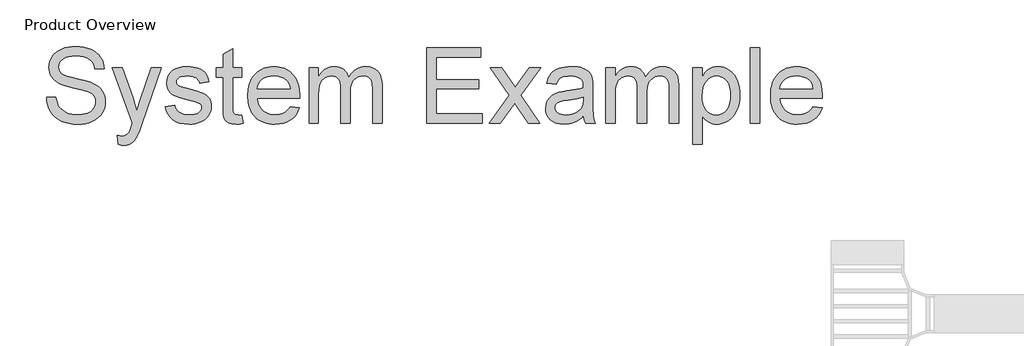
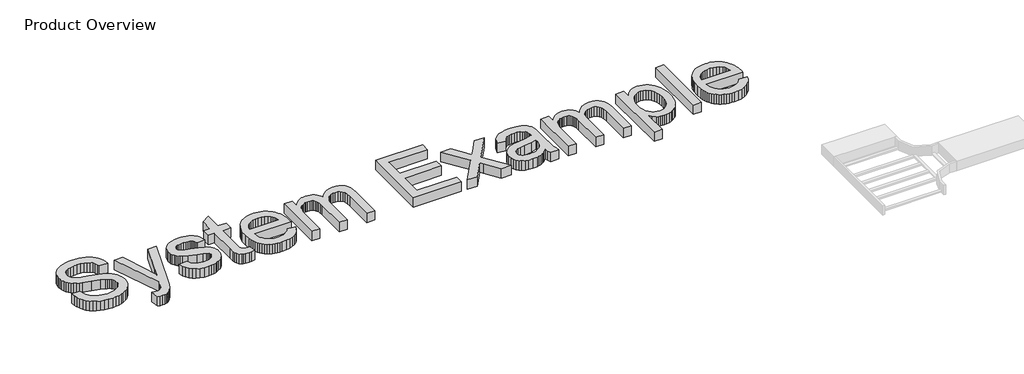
# One storey, part 2 of 11: 1 proxy.
"""IFC4 building model written with IfcOpenShell, lengths in millimetres."""

from ifc_helpers import new_model, si_unit, origin, origin_with_axes, place, context, project, spatial, polyline, outline, extrude, element, save

model = new_model("IFC4")

# Units and contexts
model_context = context("Model", 3, world=origin())
ifc_project = project(units=[si_unit("LENGTHUNIT", "METRE", prefix="MILLI")], contexts=[model_context])

# Site, building, storey
site = spatial("IfcSite", under=ifc_project)
building = spatial("IfcBuilding", under=site)
storey = spatial("IfcBuildingStorey", under=building, Name="Product Overview", Elevation=0.0)

# Proxy
placement = place(None, origin())
element("IfcBuildingElementProxy", 1, Name="1000mm", ObjectType="1000mm", at=placement, inside=storey, context=model_context, shape_type="SweptSolid", body=[
    extrude(outline(polyline([(-16866.6874423, -22458.8725874), (-16744.2631999, -22458.8725874), (-16738.6590628, -22494.507427), (-16730.2154963, -22526.8096731), (-16718.9325003, -22555.7793257), (-16704.8100749, -22581.4163847), (-16687.1308905, -22604.2364309), (-16665.1776175, -22624.7550448), (-16638.950256, -22642.9722263), (-16608.448806, -22658.8879756), (-16574.7940948, -22671.8073796), (-16539.1069499, -22681.0355253), (-16501.3873713, -22686.5724128), (-16461.635359, -22688.4180419), (-16393.4292747, -22682.8288492), (-16362.5093824, -22675.8423583), (-16333.7115901, -22666.0612711), (-16307.745755, -22653.8367801), (-16285.3217345, -22639.5200779), (-16266.4395286, -22623.1111645), (-16251.0991374, -22604.61004), (-16239.225839, -22584.8162279), (-16230.7449116, -22564.5292517), (-16225.6563551, -22543.7491114), (-16223.9601696, -22522.4758071), (-16229.0412539, -22481.4983568), (-16244.2845067, -22446.0802105), (-16257.1067724, -22430.3662101), (-16275.2492321, -22415.8627034), (-16298.711886, -22402.5696902), (-16327.494734, -22390.4871707), (-16392.1440593, -22371.2687166), (-16505.7511261, -22343.7411953), (-16622.7655082, -22312.8063587), (-16665.4690327, -22297.8993541), (-16697.6367795, -22283.3659586), (-16730.3275791, -22263.8635616), (-16758.5799021, -22242.1792872), (-16782.3937486, -22218.3131354), (-16801.7691185, -22192.2651063), (-16816.7807337, -22164.3041984), (-16827.5033159, -22134.6994103), (-16833.9368653, -22103.450742), (-16836.0813817, -22070.5581934), (-16833.4287569, -22034.1014137), (-16825.4708822, -21998.8551276), (-16812.2077578, -21964.8193351), (-16793.6393836, -21931.9940362), (-16769.9749808, -21901.7167517), (-16741.4237705, -21875.3250021), (-16707.9857526, -21852.8187877), (-16669.6609272, -21834.1981082), (-16627.7419819, -21819.6049353), (-16583.5216043, -21809.1812403), (-16536.9997944, -21802.9270233), (-16488.1765522, -21800.8422843), (-16434.9148334, -21803.0241617), (-16384.8810976, -21809.5697938), (-16338.0753448, -21820.4791806), (-16294.4975749, -21835.7523222), (-16254.9547837, -21855.2547192), (-16220.253967, -21878.8518724), (-16190.3951246, -21906.5437817), (-16165.3782567, -21938.3304472), (-16145.39764, -21973.2853182), (-16130.6475512, -22010.481844), (-16121.1279904, -22049.9200246), (-16116.8389575, -22091.5998601), (-16239.2631999, -22091.5998601), (-16247.4527122, -22052.5352886), (-16261.7395257, -22018.5518014), (-16282.1236403, -21989.6493984), (-16308.605056, -21965.8280798), (-16341.6769369, -21947.2074003), (-16381.8324471, -21933.906915), (-16429.0715865, -21925.9266238), (-16483.3943552, -21923.2665268), (-16539.4506703, -21925.8967351), (-16587.3473618, -21933.7873601), (-16627.0844298, -21946.9384018), (-16658.6618742, -21965.3498601), (-16682.7223027, -21987.4824654), (-16699.908323, -22011.7969482), (-16710.2199352, -22038.2933082), (-16713.6571393, -22066.9715457), (-16711.2212077, -22091.6446932), (-16703.913413, -22114.0164084), (-16691.7337551, -22134.0866913), (-16674.682234, -22151.8555419), (-16647.8421535, -22168.6828975), (-16605.5794878, -22185.6895855), (-16547.8942368, -22202.8756058), (-16474.7864007, -22220.2409586), (-16339.8088912, -22253.0587853), (-16292.3156975, -22267.8985403), (-16258.1528779, -22281.6921896), (-16220.6201039, -22302.599357), (-16188.3626909, -22326.106844), (-16161.380639, -22352.2146506), (-16139.673948, -22380.9227768), (-16122.9885639, -22412.0817789), (-16111.0704324, -22445.5422133), (-16103.9195535, -22481.30408), (-16101.5359272, -22519.367379), (-16104.2782183, -22557.6623157), (-16112.5050915, -22594.836425), (-16126.2165469, -22630.8897068), (-16145.4125844, -22665.8221612), (-16169.7569558, -22698.2813232), (-16198.913413, -22726.9147275), (-16232.8819558, -22751.7223743), (-16271.6625844, -22772.7042635), (-16314.126999, -22789.3896476), (-16359.1469002, -22801.3077791), (-16406.7222879, -22808.458658), (-16456.853162, -22810.8422843), (-16519.4775258, -22808.2718535), (-16576.7966398, -22800.5605609), (-16628.810504, -22787.7084065), (-16675.5191185, -22769.7153904), (-16717.2064261, -22746.5516238), (-16754.1563699, -22718.1872181), (-16786.3689498, -22684.6221731), (-16813.8441658, -22645.8564889), (-16835.9767712, -22603.1454922), (-16852.161519, -22557.7445097), (-16862.3984094, -22509.6535414), (-16866.6874423, -22458.8725874)])), origin_with_axes(), (0.0, 0.0, 1.0), 150.0),
    extrude(outline(polyline([(-15933.2025939, -23070.9937995), (-15948.5056242, -22953.1126442), (-15915.1498003, -22961.1826016), (-15886.3370636, -22963.8725874), (-15853.6387918, -22960.4951608), (-15828.2333704, -22950.3628809), (-15808.4470304, -22934.1930774), (-15792.6060029, -22912.7030798), (-15779.0962965, -22881.0808023), (-15759.1306242, -22822.5586669), (-15749.5662302, -22792.9090457), (-16009.7177454, -22076.2968298), (-15880.5984272, -22076.2968298), (-15742.6320446, -22475.6102768), (-15717.2266232, -22553.5600874), (-15694.5709651, -22635.3356556), (-15646.5098855, -22494.2608449), (-15504.7177454, -22076.2968298), (-15376.5548666, -22076.2968298), (-15626.9028779, -22812.7551631), (-15664.0844594, -22910.6706461), (-15691.9407567, -22972.4805419), (-15725.2368031, -23023.4707171), (-15743.5436509, -23043.092669), (-15762.9563817, -23058.7991972), (-15783.8934378, -23070.8294115), (-15806.7732615, -23079.4224216), (-15831.5958526, -23084.5782278), (-15858.3612113, -23086.2968298), (-15893.8092463, -23082.4710722), (-15933.2025939, -23070.9937995)])), origin_with_axes(), (0.0, 0.0, 1.0), 150.0),
    extrude(outline(polyline([(-15321.0813817, -22581.2968298), (-15198.6571393, -22565.9937995), (-15191.2596784, -22593.9098743), (-15179.349019, -22618.3588563), (-15162.9251613, -22639.3407455), (-15141.9881052, -22656.8555419), (-15116.4780733, -22670.6641357), (-15086.335288, -22680.5274169), (-15051.5597494, -22686.4453857), (-15012.1514575, -22688.4180419), (-14972.7879987, -22686.6097737), (-14938.8642889, -22681.184969), (-14910.3803282, -22672.1436279), (-14887.3361166, -22659.4857502), (-14869.5523216, -22644.3919411), (-14856.8496109, -22628.0428052), (-14849.2279845, -22610.4383426), (-14846.6874423, -22591.5785533), (-14849.2429288, -22575.050085), (-14856.9093884, -22560.3747181), (-14869.6868209, -22547.5524524), (-14887.5752264, -22536.5832881), (-14933.4245399, -22521.041148), (-15013.5861166, -22501.6732502), (-15125.3101933, -22469.363532), (-15197.9398098, -22441.7762332), (-15222.8744837, -22427.9452229), (-15244.596119, -22411.678281), (-15263.1047157, -22392.9754076), (-15278.4002738, -22371.8366025), (-15290.3781828, -22348.8970014), (-15298.933832, -22324.7917398), (-15304.0672216, -22299.5208177), (-15305.7783514, -22273.0842351), (-15300.2788249, -22225.6508189), (-15283.7802454, -22181.8638279), (-15257.7770493, -22143.4568085), (-15223.7636734, -22112.1633071), (-15189.9595186, -22092.4666333), (-15145.9334177, -22075.938165), (-15095.0329087, -22064.7298909), (-15040.6055295, -22060.9937995), (-14999.4636912, -22062.4957082), (-14960.9221725, -22067.0014344), (-14924.9809734, -22074.5109781), (-14891.6400939, -22085.0243393), (-14861.6915853, -22098.1006591), (-14835.9274992, -22113.2990788), (-14814.3478353, -22130.6195985), (-14796.9525939, -22150.0622181), (-14782.8451128, -22172.3069061), (-14771.1287302, -22198.0336314), (-14761.8034461, -22227.2423938), (-14754.8692605, -22259.9331934), (-14877.2935029, -22275.2362237), (-14883.1292777, -22254.7848595), (-14892.7459769, -22236.7096494), (-14906.1436006, -22221.0105934), (-14923.3221488, -22207.6876915), (-14944.3563433, -22197.0697198), (-14969.3209059, -22189.4854543), (-14998.2158366, -22184.934895), (-15031.0411355, -22183.4180419), (-15069.1193789, -22184.8676454), (-15101.339431, -22189.2164557), (-15127.7012918, -22196.464473), (-15148.2049613, -22206.6116972), (-15163.5827134, -22218.6867446), (-15174.5668221, -22231.7182313), (-15181.1572873, -22245.7061574), (-15183.354109, -22260.650523), (-15179.7076838, -22279.4804235), (-15168.7684083, -22296.2778904), (-15150.0580626, -22311.2820334), (-15123.0984272, -22323.2973033), (-15017.650984, -22349.3602768), (-14909.4836663, -22381.341219), (-14837.9599329, -22406.9857502), (-14812.7936213, -22419.4941842), (-14790.4966279, -22434.5431603), (-14771.0689528, -22452.1326785), (-14754.5105958, -22472.2627389), (-14741.2773601, -22494.9632301), (-14731.8250489, -22520.264041), (-14726.1536622, -22548.1651714), (-14724.2631999, -22578.6666215), (-14726.4824382, -22609.3025708), (-14733.140153, -22639.0418582), (-14744.2363444, -22667.8844837), (-14759.7710124, -22695.8304472), (-14779.4901027, -22721.7663936), (-14803.1395612, -22744.5789676), (-14830.7193878, -22764.2681692), (-14862.2295825, -22780.8339984), (-14896.8108443, -22793.9626235), (-14933.6038723, -22803.3402128), (-14972.6086663, -22808.9667665), (-15013.8252264, -22810.8422843), (-15079.7149341, -22807.2257479), (-15137.2656857, -22796.3761385), (-15186.4774814, -22778.2934562), (-15227.3503211, -22752.977701), (-15260.7360337, -22720.5484278), (-15287.486448, -22681.1251915), (-15307.601564, -22634.7079922), (-15321.0813817, -22581.2968298)])), origin_with_axes(), (0.0, 0.0, 1.0), 150.0),
    extrude(outline(polyline([(-14326.384412, -22693.4393487), (-14311.0813817, -22799.1259018), (-14359.5609035, -22807.9131887), (-14402.6604537, -22810.8422843), (-14461.421699, -22805.7612001), (-14485.1981845, -22799.4098447), (-14505.2385787, -22790.5179472), (-14536.2033041, -22767.0254046), (-14556.4080863, -22737.196451), (-14562.8939409, -22716.13984), (-14567.5266942, -22685.967166), (-14571.2328969, -22598.273629), (-14571.2328969, -22198.7210722), (-14663.0510787, -22198.7210722), (-14663.0510787, -22076.2968298), (-14571.2328969, -22076.2968298), (-14571.2328969, -21901.5075306), (-14448.8086545, -21829.5354662), (-14448.8086545, -22076.2968298), (-14326.384412, -22076.2968298), (-14326.384412, -22198.7210722), (-14448.8086545, -22198.7210722), (-14448.8086545, -22594.6869813), (-14447.194663, -22634.9769908), (-14442.3526886, -22657.8119813), (-14433.8941777, -22670.4549145), (-14421.4305768, -22680.1687521), (-14403.7663368, -22686.3557195), (-14379.7059083, -22688.4180419), (-14326.384412, -22693.4393487)])), origin_with_axes(), (0.0, 0.0, 1.0), 150.0),
    extrude(outline(polyline([(-13700.3948287, -22581.2968298), (-13580.3616848, -22596.5998601), (-13598.7656709, -22644.675884), (-13623.6106786, -22687.0431603), (-13654.8967078, -22723.7016889), (-13692.6237586, -22754.6514699), (-13736.4032775, -22779.2349512), (-13785.8467108, -22796.7945807), (-13840.9540587, -22807.3303584), (-13901.7253211, -22810.8422843), (-13940.7413234, -22809.3272993), (-13977.6875311, -22804.7823441), (-14012.5639442, -22797.2074188), (-14045.3705626, -22786.6025234), (-14076.1073864, -22772.9676579), (-14104.7744156, -22756.3028223), (-14131.3716501, -22736.6080166), (-14155.8990901, -22713.8832408), (-14177.9233488, -22688.4236461), (-14197.0110396, -22660.5243837), (-14213.1621627, -22630.1854536), (-14226.3767179, -22597.4068558), (-14236.6547053, -22562.1885904), (-14243.9961249, -22524.5306573), (-14249.8692605, -22441.8957881), (-14243.9363474, -22356.4588504), (-14236.520206, -22317.5399865), (-14226.1376081, -22281.1541925), (-14212.7885536, -22247.3014685), (-14196.4730425, -22215.9818144), (-14177.1910749, -22187.1952303), (-14154.9426507, -22160.9417162), (-14130.3292806, -22137.5164232), (-14103.9524755, -22117.2145026), (-14075.8122352, -22100.0359544), (-14045.9085598, -22085.9807787), (-14014.2414492, -22075.0489753), (-13980.8109035, -22067.2405443), (-13945.6169227, -22062.5554857), (-13908.6595067, -22060.9937995), (-13872.9107163, -22062.5517496), (-13838.8319588, -22067.2255999), (-13806.4232341, -22075.0153504), (-13775.6845422, -22085.9210012), (-13746.6158832, -22099.9425522), (-13719.2172571, -22117.0800033), (-13693.4886638, -22137.3333547), (-13669.4301033, -22160.7026063), (-13647.6580308, -22186.896343), (-13628.7889013, -22215.6231496), (-13612.8227147, -22246.8830262), (-13599.7594712, -22280.6759728), (-13589.5991707, -22317.0019893), (-13582.3418132, -22355.8610758), (-13576.5359272, -22441.1784586), (-13577.2532567, -22474.1756177), (-14127.4450181, -22474.1756177), (-14120.3539167, -22523.0287486), (-14106.2539078, -22565.8144671), (-14085.1449915, -22602.5327732), (-14057.0271677, -22633.1836669), (-14023.4546506, -22657.348706), (-13985.981654, -22674.6094482), (-13944.608178, -22684.9658935), (-13899.3342226, -22688.4180419), (-13865.4702904, -22686.8189948), (-13834.1767889, -22682.0218535), (-13805.4537184, -22674.0266179), (-13779.3010787, -22662.8332881), (-13755.7188699, -22648.1429768), (-13734.707092, -22629.6567966), (-13716.2657449, -22607.3747476), (-13700.3948287, -22581.2968298)]), holes=[polyline([(-14127.4450181, -22351.7513752), (-13698.9601696, -22351.7513752), (-13705.2517475, -22317.1103359), (-13715.5185266, -22287.0721612), (-13729.760507, -22261.6368511), (-13747.9776886, -22240.8044056), (-13781.3634011, -22215.6978715), (-13819.3519783, -22197.7646328), (-13861.9434201, -22187.0046896), (-13909.1377264, -22183.4180419), (-13952.1849713, -22186.2798879), (-13991.6605129, -22194.8654259), (-14027.5643511, -22209.1746559), (-14059.8964859, -22229.2075779), (-14087.0279815, -22254.0376412), (-14107.3299021, -22282.7382952), (-14120.8022476, -22315.3095399), (-14127.4450181, -22351.7513752)])]), origin_with_axes(), (0.0, 0.0, 1.0), 150.0),
    extrude(outline(polyline([(-13454.1116848, -22795.539254), (-13454.1116848, -22076.2968298), (-13331.6874423, -22076.2968298), (-13331.6874423, -22194.6562048), (-13314.5910882, -22166.0003839), (-13294.8645257, -22140.288603), (-13272.5077548, -22117.5208621), (-13247.5207757, -22097.6971612), (-13220.307086, -22081.6394405), (-13191.2701838, -22070.1696399), (-13160.410069, -22063.2877596), (-13127.7267416, -22060.9937995), (-13091.9947636, -22063.3325927), (-13059.6402122, -22070.3489723), (-13030.6630875, -22082.0429383), (-13005.0633893, -22098.4144908), (-12982.9158396, -22119.0003543), (-12964.2951601, -22143.3372536), (-12949.201351, -22171.4251886), (-12937.634412, -22203.2641593), (-12916.1070535, -22169.9195437), (-12893.0105366, -22141.0208769), (-12868.3448613, -22116.5681588), (-12842.1100276, -22096.5613895), (-12814.3060355, -22081.0005688), (-12784.932885, -22069.885697), (-12753.9905762, -22063.2167739), (-12721.479109, -22060.9937995), (-12672.4690623, -22064.69253), (-12629.4517061, -22075.7887214), (-12592.4270405, -22094.2823737), (-12561.3950654, -22120.173487), (-12536.8638894, -22153.7609485), (-12519.3416208, -22195.3436456), (-12508.8282597, -22244.9215783), (-12505.323806, -22302.4947465), (-12505.323806, -22795.539254), (-12627.7480484, -22795.539254), (-12627.7480484, -22355.0989131), (-12630.5874779, -22294.0362356), (-12639.1057662, -22252.8794529), (-12655.0663486, -22224.6943795), (-12680.2326601, -22202.5468298), (-12712.6021559, -22188.2002389), (-12750.1722908, -22183.4180419), (-12784.8656354, -22186.4816368), (-12816.495385, -22195.6724216), (-12845.0615398, -22210.9903963), (-12870.5640995, -22232.4355609), (-12891.5385166, -22260.6355786), (-12906.520243, -22296.2181129), (-12915.5092789, -22339.1831638), (-12918.5056242, -22389.5307313), (-12918.5056242, -22795.539254), (-13040.9298666, -22795.539254), (-13040.9298666, -22341.4696518), (-13042.7007739, -22304.3777365), (-13048.0134958, -22272.2473506), (-13056.8680324, -22245.0784941), (-13069.2643836, -22222.8711669), (-13085.6957135, -22205.6104247), (-13106.6551862, -22193.2813232), (-13132.1428016, -22185.8838622), (-13162.1585598, -22183.4180419), (-13186.2040439, -22185.0619221), (-13209.3229774, -22189.9935627), (-13231.5153602, -22198.2129638), (-13252.7811923, -22209.7201252), (-13272.1490901, -22224.3954922), (-13288.6476696, -22242.1195097), (-13302.276931, -22262.8921778), (-13313.0368742, -22286.7134965), (-13321.1964977, -22314.8537368), (-13327.0248003, -22348.5831698), (-13331.6874423, -22432.8096139), (-13331.6874423, -22795.539254), (-13454.1116848, -22795.539254)])), origin_with_axes(), (0.0, 0.0, 1.0), 150.0),
    extrude(outline(polyline([(-11923.8086545, -22795.539254), (-11923.8086545, -21816.1453146), (-11219.8692605, -21816.1453146), (-11219.8692605, -21938.5695571), (-11801.384412, -21938.5695571), (-11801.384412, -22229.3271328), (-11250.4753211, -22229.3271328), (-11250.4753211, -22351.7513752), (-11801.384412, -22351.7513752), (-11801.384412, -22673.1150116), (-11204.5662302, -22673.1150116), (-11204.5662302, -22795.539254), (-11923.8086545, -22795.539254)])), origin_with_axes(), (0.0, 0.0, 1.0), 150.0),
    extrude(outline(polyline([(-11112.7480484, -22795.539254), (-10851.1618742, -22434.0051631), (-11097.4450181, -22076.2968298), (-10950.1533514, -22076.2968298), (-10831.3157567, -22248.4559207), (-10775.8422719, -22329.7532692), (-10727.7811923, -22263.2807313), (-10592.4450181, -22076.2968298), (-10445.1533514, -22076.2968298), (-10703.8702075, -22434.0051631), (-10454.7177454, -22795.539254), (-10602.009412, -22795.539254), (-10751.931287, -22578.1884018), (-10779.4289196, -22538.4961669), (-10965.4563817, -22795.539254), (-11112.7480484, -22795.539254)])), origin_with_axes(), (0.0, 0.0, 1.0), 150.0),
    extrude(outline(polyline([(-9888.5056242, -22703.7210722), (-9917.5350542, -22730.9646506), (-9946.9978708, -22753.8743629), (-9976.8940741, -22772.4502093), (-10007.2236639, -22786.6921896), (-10038.3303608, -22797.2578561), (-10070.557885, -22804.8047607), (-10138.3754158, -22810.8422843), (-10192.8849891, -22807.2108035), (-10240.6845422, -22796.316361), (-10281.7740753, -22778.1589569), (-10316.1535882, -22752.7385912), (-10343.3000282, -22721.6692552), (-10362.6903424, -22686.5649406), (-10374.324531, -22647.4256473), (-10378.2025939, -22604.2513752), (-10372.3444026, -22553.5003099), (-10354.7698287, -22507.4118866), (-10327.6607496, -22467.9587616), (-10293.1990427, -22437.1135912), (-10252.6998121, -22413.8003809), (-10207.478162, -22396.9431366), (-10163.4221725, -22387.5580751), (-10101.5524992, -22378.5316783), (-9976.3784935, -22359.1637806), (-9928.0484154, -22348.224505), (-9889.2229537, -22336.4483449), (-9888.5056242, -22309.1898222), (-9890.6127797, -22279.5103123), (-9896.9342463, -22254.5532218), (-9907.470024, -22234.3185509), (-9922.2201128, -22218.8062995), (-9947.7152004, -22203.3239368), (-9978.769592, -22192.2651063), (-10015.3832875, -22185.629808), (-10057.556287, -22183.4180419), (-10096.7703022, -22184.8900619), (-10130.4847908, -22189.3061219), (-10158.6997529, -22196.666222), (-10181.4151886, -22206.970362), (-10200.0807011, -22221.0255378), (-10216.145894, -22239.638745), (-10229.6107674, -22262.8099838), (-10240.4753211, -22290.539254), (-10362.8995636, -22275.2362237), (-10353.5817516, -22239.9675211), (-10341.6486758, -22208.2854662), (-10327.1003359, -22180.190059), (-10309.9367321, -22155.6812995), (-10289.4181182, -22134.2660237), (-10264.8047482, -22115.4510675), (-10236.096622, -22099.2364309), (-10203.2937397, -22085.6221139), (-10167.0611255, -22074.8472263), (-10128.0638036, -22067.1508781), (-10086.3017741, -22062.5330691), (-10041.775037, -22060.9937995), (-9959.0131407, -22066.4335485), (-9924.0657419, -22073.2332349), (-9893.4073761, -22082.7527957), (-9843.9415261, -22107.2914439), (-9824.8799879, -22121.645507), (-9809.5993742, -22137.3893961), (-9786.8241611, -22174.6008663), (-9772.0591279, -22220.4800684), (-9767.5758183, -22262.8025116), (-9766.0813817, -22327.6012806), (-9766.0813817, -22479.914254), (-9764.5271677, -22612.5903312), (-9759.8645257, -22692.6024643), (-9750.6587965, -22745.1767422), (-9735.4753211, -22795.539254), (-9857.8995636, -22795.539254), (-9877.5065711, -22752.977701), (-9888.5056242, -22703.7210722)]), holes=[polyline([(-9888.5056242, -22458.8725874), (-9970.759412, -22479.256702), (-10086.010359, -22496.4128336), (-10149.5239125, -22505.7978951), (-10191.3382473, -22516.258951), (-10218.7462136, -22529.8284349), (-10239.040662, -22548.5387806), (-10251.5939291, -22570.9553288), (-10255.7783514, -22595.6434207), (-10253.4993357, -22614.667598), (-10246.6622885, -22632.0478951), (-10235.2672097, -22647.784312), (-10219.3140995, -22661.8768487), (-10198.9524015, -22673.4886207), (-10174.3315593, -22681.7827436), (-10145.4515729, -22686.7592173), (-10112.3124423, -22688.4180419), (-10078.4783988, -22686.5873571), (-10046.557234, -22681.0953028), (-10016.548948, -22671.9418789), (-9988.4535408, -22659.1270855), (-9963.1078969, -22643.7119724), (-9941.3489007, -22626.7575897), (-9923.1765522, -22608.2639374), (-9908.5908514, -22588.2310154), (-9900.1173962, -22570.2977768), (-9894.0649281, -22548.5387806), (-9889.2229537, -22493.5435154), (-9888.5056242, -22458.8725874)])]), origin_with_axes(), (0.0, 0.0, 1.0), 150.0),
    extrude(outline(polyline([(-9597.7480484, -22795.539254), (-9597.7480484, -22076.2968298), (-9475.323806, -22076.2968298), (-9475.323806, -22194.6562048), (-9458.2274518, -22166.0003839), (-9438.5008893, -22140.288603), (-9416.1441185, -22117.5208621), (-9391.1571393, -22097.6971612), (-9363.9434497, -22081.6394405), (-9334.9065475, -22070.1696399), (-9304.0464326, -22063.2877596), (-9271.3631052, -22060.9937995), (-9235.6311272, -22063.3325927), (-9203.2765759, -22070.3489723), (-9174.2994511, -22082.0429383), (-9148.6997529, -22098.4144908), (-9126.5522032, -22119.0003543), (-9107.9315238, -22143.3372536), (-9092.8377146, -22171.4251886), (-9081.2707757, -22203.2641593), (-9059.7434171, -22169.9195437), (-9036.6469002, -22141.0208769), (-9011.9812249, -22116.5681588), (-8985.7463912, -22096.5613895), (-8957.9423991, -22081.0005688), (-8928.5692487, -22069.885697), (-8897.6269399, -22063.2167739), (-8865.1154726, -22060.9937995), (-8816.1054259, -22064.69253), (-8773.0880697, -22075.7887214), (-8736.0634041, -22094.2823737), (-8705.0314291, -22120.173487), (-8680.5002531, -22153.7609485), (-8662.9779845, -22195.3436456), (-8652.4646233, -22244.9215783), (-8648.9601696, -22302.4947465), (-8648.9601696, -22795.539254), (-8771.384412, -22795.539254), (-8771.384412, -22355.0989131), (-8774.2238415, -22294.0362356), (-8782.7421298, -22252.8794529), (-8798.7027122, -22224.6943795), (-8823.8690238, -22202.5468298), (-8856.2385195, -22188.2002389), (-8893.8086545, -22183.4180419), (-8928.501999, -22186.4816368), (-8960.1317487, -22195.6724216), (-8988.6979034, -22210.9903963), (-9014.2004632, -22232.4355609), (-9035.1748802, -22260.6355786), (-9050.1566066, -22296.2181129), (-9059.1456425, -22339.1831638), (-9062.1419878, -22389.5307313), (-9062.1419878, -22795.539254), (-9184.5662302, -22795.539254), (-9184.5662302, -22341.4696518), (-9186.3371375, -22304.3777365), (-9191.6498595, -22272.2473506), (-9200.5043961, -22245.0784941), (-9212.9007473, -22222.8711669), (-9229.3320772, -22205.6104247), (-9250.2915498, -22193.2813232), (-9275.7791652, -22185.8838622), (-9305.7949234, -22183.4180419), (-9329.8404075, -22185.0619221), (-9352.959341, -22189.9935627), (-9375.1517238, -22198.2129638), (-9396.417556, -22209.7201252), (-9415.7854537, -22224.3954922), (-9432.2840333, -22242.1195097), (-9445.9132946, -22262.8921778), (-9456.6732378, -22286.7134965), (-9464.8328614, -22314.8537368), (-9470.6611639, -22348.5831698), (-9475.323806, -22432.8096139), (-9475.323806, -22795.539254), (-9597.7480484, -22795.539254)])), origin_with_axes(), (0.0, 0.0, 1.0), 150.0),
    extrude(outline(polyline([(-8465.323806, -23070.9937995), (-8465.323806, -22076.2968298), (-8342.8995636, -22076.2968298), (-8342.8995636, -22196.3299737), (-8323.5316658, -22164.6105579), (-8302.9682189, -22137.1203975), (-8281.2092226, -22113.8594926), (-8258.2546772, -22094.8278431), (-8233.4470304, -22080.025449), (-8206.1287302, -22069.4523104), (-8176.2997766, -22063.1084272), (-8143.9601696, -22060.9937995), (-8101.2641173, -22063.9527839), (-8061.1683846, -22072.829737), (-8023.6729715, -22087.6246589), (-7988.7778779, -22108.3375495), (-7957.2452667, -22134.4304117), (-7929.8373003, -22165.3652484), (-7906.5539788, -22201.1420594), (-7887.3953022, -22241.7608449), (-7872.4359923, -22285.8317789), (-7861.7507709, -22331.9650353), (-7855.3396381, -22380.1606141), (-7853.2025939, -22430.4185154), (-7855.6161089, -22484.1509817), (-7862.856654, -22535.1187403), (-7874.9242292, -22583.3217913), (-7891.8188344, -22628.7601347), (-7913.308832, -22670.2456934), (-7939.1625844, -22706.5903904), (-7969.3800915, -22737.7942256), (-8003.9613533, -22763.8571991), (-8041.2101844, -22784.4131739), (-8079.4303993, -22799.096013), (-8118.6219979, -22807.9057165), (-8158.7849802, -22810.8422843), (-8187.679911, -22808.8771003), (-8215.0654608, -22802.9815481), (-8240.9416297, -22793.1556277), (-8265.3084177, -22779.3993393), (-8308.3183017, -22743.8018606), (-8342.8995636, -22699.8953146), (-8342.8995636, -23070.9937995), (-8465.323806, -23070.9937995)]), holes=[polyline([(-8342.8995636, -22441.6566783), (-8339.5893866, -22500.6570334), (-8329.6588557, -22551.4080987), (-8313.1079709, -22593.9098743), (-8289.9367321, -22628.1623601), (-8262.0430739, -22654.5242209), (-8231.3249305, -22673.3541215), (-8197.7823021, -22684.6520618), (-8161.4151886, -22688.4180419), (-8124.5250222, -22684.5175625), (-8090.3696748, -22672.8161243), (-8058.9491463, -22653.3137273), (-8030.2634367, -22626.0103715), (-8006.359924, -22590.5175033), (-7989.2859864, -22546.4465694), (-7979.0416238, -22493.7975696), (-7975.6268363, -22432.570504), (-7978.9594298, -22374.0782574), (-7988.9572103, -22323.4168582), (-8005.6201779, -22280.5863066), (-8028.9483325, -22245.5866025), (-8056.9092404, -22218.3878573), (-8087.4704679, -22198.9601821), (-8120.632015, -22187.303577), (-8156.3938817, -22183.4180419), (-8192.0436657, -22187.550159), (-8225.5862941, -22199.9465102), (-8257.021767, -22220.6070955), (-8286.3500844, -22249.531915), (-8311.0904815, -22286.3324151), (-8328.7621938, -22330.6200424), (-8339.3652211, -22382.3947968), (-8342.8995636, -22441.6566783)])]), origin_with_axes(), (0.0, 0.0, 1.0), 150.0),
    extrude(outline(polyline([(-7715.4753211, -22795.539254), (-7715.4753211, -21816.1453146), (-7593.0510787, -21816.1453146), (-7593.0510787, -22795.539254), (-7715.4753211, -22795.539254)])), origin_with_axes(), (0.0, 0.0, 1.0), 150.0),
    extrude(outline(polyline([(-6905.8493742, -22581.2968298), (-6785.8162302, -22596.5998601), (-6804.2202164, -22644.675884), (-6829.0652241, -22687.0431603), (-6860.3512533, -22723.7016889), (-6898.0783041, -22754.6514699), (-6941.8578229, -22779.2349512), (-6991.3012563, -22796.7945807), (-7046.4086042, -22807.3303584), (-7107.1798666, -22810.8422843), (-7146.1958689, -22809.3272993), (-7183.1420766, -22804.7823441), (-7218.0184896, -22797.2074188), (-7250.8251081, -22786.6025234), (-7281.5619319, -22772.9676579), (-7310.228961, -22756.3028223), (-7336.8261956, -22736.6080166), (-7361.3536355, -22713.8832408), (-7383.3778942, -22688.4236461), (-7402.4655851, -22660.5243837), (-7418.6167081, -22630.1854536), (-7431.8312634, -22597.4068558), (-7442.1092508, -22562.1885904), (-7449.4506703, -22524.5306573), (-7455.323806, -22441.8957881), (-7449.3908929, -22356.4588504), (-7441.9747515, -22317.5399865), (-7431.5921535, -22281.1541925), (-7418.243099, -22247.3014685), (-7401.9275879, -22215.9818144), (-7382.6456203, -22187.1952303), (-7360.3971961, -22160.9417162), (-7335.7838261, -22137.5164232), (-7309.4070209, -22117.2145026), (-7281.2667806, -22100.0359544), (-7251.3631052, -22085.9807787), (-7219.6959947, -22075.0489753), (-7186.265449, -22067.2405443), (-7151.0714681, -22062.5554857), (-7114.1140522, -22060.9937995), (-7078.3652618, -22062.5517496), (-7044.2865042, -22067.2255999), (-7011.8777796, -22075.0153504), (-6981.1390877, -22085.9210012), (-6952.0704287, -22099.9425522), (-6924.6718025, -22117.0800033), (-6898.9432092, -22137.3333547), (-6874.8846488, -22160.7026063), (-6853.1125762, -22186.896343), (-6834.2434467, -22215.6231496), (-6818.2772602, -22246.8830262), (-6805.2140167, -22280.6759728), (-6795.0537162, -22317.0019893), (-6787.7963587, -22355.8610758), (-6781.9904726, -22441.1784586), (-6782.7078022, -22474.1756177), (-7332.8995636, -22474.1756177), (-7325.8084621, -22523.0287486), (-7311.7084532, -22565.8144671), (-7290.5995369, -22602.5327732), (-7262.4817132, -22633.1836669), (-7228.909196, -22657.348706), (-7191.4361994, -22674.6094482), (-7150.0627235, -22684.9658935), (-7104.7887681, -22688.4180419), (-7070.9248358, -22686.8189948), (-7039.6313344, -22682.0218535), (-7010.9082638, -22674.0266179), (-6984.7556242, -22662.8332881), (-6961.1734154, -22648.1429768), (-6940.1616374, -22629.6567966), (-6921.7202904, -22607.3747476), (-6905.8493742, -22581.2968298)]), holes=[polyline([(-7332.8995636, -22351.7513752), (-6904.4147151, -22351.7513752), (-6910.706293, -22317.1103359), (-6920.9730721, -22287.0721612), (-6935.2150524, -22261.6368511), (-6953.432234, -22240.8044056), (-6986.8179466, -22215.6978715), (-7024.8065238, -22197.7646328), (-7067.3979655, -22187.0046896), (-7114.5922719, -22183.4180419), (-7157.6395168, -22186.2798879), (-7197.1150583, -22194.8654259), (-7233.0188965, -22209.1746559), (-7265.3510314, -22229.2075779), (-7292.482527, -22254.0376412), (-7312.7844475, -22282.7382952), (-7326.2567931, -22315.3095399), (-7332.8995636, -22351.7513752)])]), origin_with_axes(), (0.0, 0.0, 1.0), 150.0),
])

save(model, "model.ifc")
